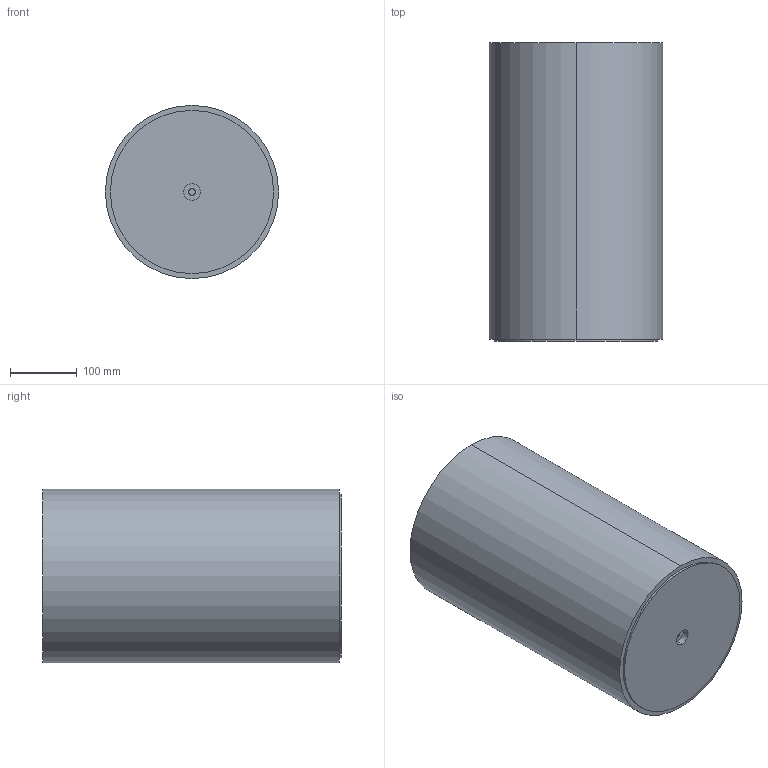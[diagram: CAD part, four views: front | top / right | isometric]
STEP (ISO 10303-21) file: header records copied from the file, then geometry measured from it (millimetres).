
FILE_DESCRIPTION (( 'STEP AP214' ), '1' );
FILE_NAME ('Valec_3D.STEP', '2026-05-04T15:16:15', ( '' ), ( '' ), 'SwSTEP 2.0', 'SolidWorks 2025', '' );
FILE_SCHEMA (( 'AUTOMOTIVE_DESIGN' ));
Length unit declared in the file: millimetre
Products named in the file (3): Tavolino_CILINDRI; Valec_3D; Tavolino_TAPPO_CHIUSURA_Sotto_mdf_Verniciato-NeroOpaco
Assembly tree (2 placements, depth 2):
  Valec_3D
    Tavolino_TAPPO_CHIUSURA_Sotto_mdf_Verniciato-NeroOpaco
    Tavolino_CILINDRI
Bounding box: 260 x 448 x 260 mm (x, y, z)
Volume: 8368044.4 mm3; surface area: 875616.9 mm2
Topology: 2 solids, 2 shells, 19 faces, 36 edges, 24 vertices
Faces by surface type: cylinder 12, plane 7
Entity records: 586 total; most frequent: DIRECTION 108, CARTESIAN_POINT 84, ORIENTED_EDGE 72, AXIS2_PLACEMENT_3D 48, EDGE_CURVE 36, CIRCLE 24, VERTEX_POINT 24, EDGE_LOOP 24
